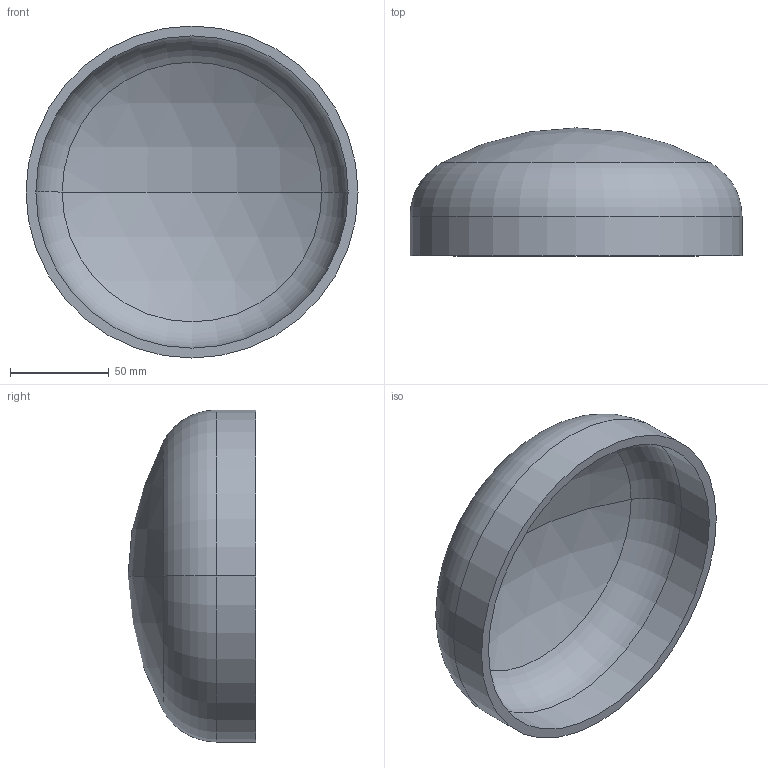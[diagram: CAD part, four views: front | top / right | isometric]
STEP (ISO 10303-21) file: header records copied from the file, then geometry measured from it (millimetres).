
FILE_DESCRIPTION (( 'STEP AP203' ), '1' );
FILE_NAME ('DIN 28013 Korbbogenform_-_Boden DIN 28013 - 168,3 x 20 - I - s=5.step', '2016-07-01T07:41:25', ( '' ), ( '' ), 'SwSTEP 2.0', 'SolidWorks 2013', '' );
FILE_SCHEMA (( 'CONFIG_CONTROL_DESIGN' ));
Length unit declared in the file: millimetre
Products named in the file (1): DIN 28013 Korbbogenform_-_Boden DIN 28013 - 168,3 x 20 - I - s=5
Bounding box: 168.3 x 64.84 x 168.3 mm (x, y, z)
Volume: 199555.4 mm3; surface area: 82439.6 mm2
Topology: 1 solids, 1 shells, 13 faces, 24 edges, 14 vertices
Faces by surface type: torus 4, cylinder 4, sphere 4, plane 1
Entity records: 407 total; most frequent: DIRECTION 72, CARTESIAN_POINT 52, ORIENTED_EDGE 48, AXIS2_PLACEMENT_3D 34, EDGE_CURVE 24, CIRCLE 20, EDGE_LOOP 14, VERTEX_POINT 14
